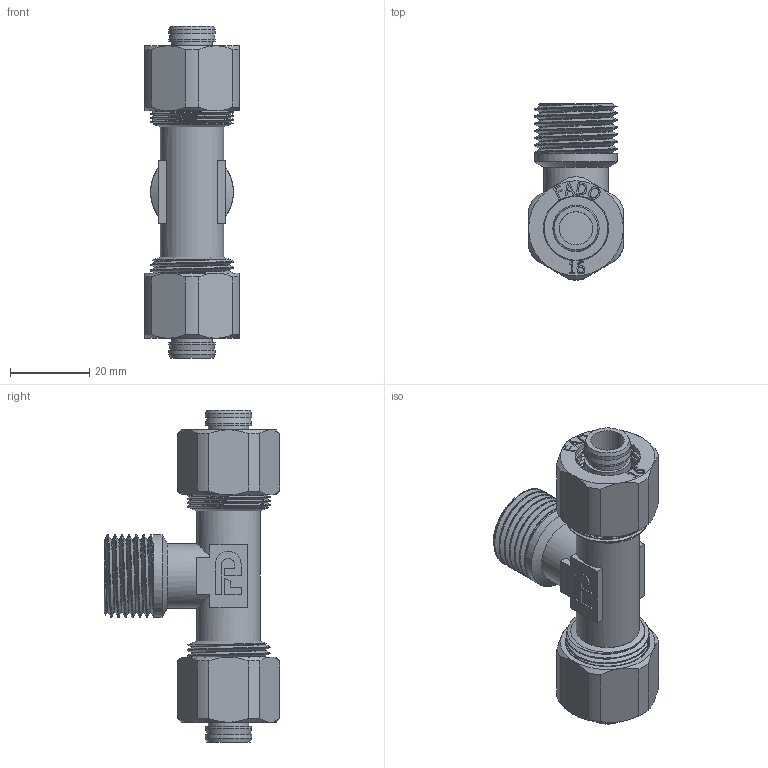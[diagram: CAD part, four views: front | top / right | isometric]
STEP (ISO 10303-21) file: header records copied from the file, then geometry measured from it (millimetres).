
FILE_DESCRIPTION(/* description */ (''),/* implementation_level */ '2;1');
FILE_NAME(/* name */ 'C:\Users\Doom\Desktop\Фадотех\Обжим\RFT21 16x12''''Mx16 30.03.2020\RFT21 16x12''''Mx16 30.03.2020.stp',/* time_stamp */ '2022-06-01T13:50:55+03:00',/* author */ ('Doom'),/* organization */ (''),/* preprocessor_version */ 'ST-DEVELOPER v18',/* originating_system */ 'Autodesk Inventor 2020',/* authorisation */ '');
FILE_SCHEMA (('AUTOMOTIVE_DESIGN { 1 0 10303 214 3 1 1 }'));
Length unit declared in the file: millimetre
Products named in the file (5): RFT21 16x12''Mx16 30.03.2020; RFT21 16x12''Mx16 30.03.2020_1; FADO MC Nut-16 15.02.2020; FADO MC Socket-16 15.02.2020; Olive 16 15.02.2020
Assembly tree (6 placements, depth 2):
  RFT21 16x12''Mx16 30.03.2020
    FADO MC Nut-16 15.02.2020  x2
    FADO MC Socket-16 15.02.2020  x2
    Olive 16 15.02.2020  x2
  RFT21 16x12''Mx16 30.03.2020_1
Bounding box: 24 x 44.49 x 84 mm (x, y, z)
Volume: 19094.6 mm3; surface area: 31267.3 mm2
Topology: 12 solids, 12 shells, 1063 faces, 2909 edges, 1952 vertices
Faces by surface type: bspline 506, plane 332, cylinder 168, cone 55, torus 2
Full cylindrical faces by diameter (mm): 8.5 x2, 10.2 x4, 11.7 x8, 12.5 x2, 12.6 x2, 14.7 x4, 15.5 x3, 16 x1, 16.3 x1, 16.5 x2, 18.26 x2, 18.776 x2, 19 x2, 19.5 x2, 19.517 x2, 19.867 x24, 20.95 x6, 21 x15, 21.35 x4
Entity records: 41328 total; most frequent: CARTESIAN_POINT 27626, ORIENTED_EDGE 3292, DIRECTION 1977, EDGE_CURVE 1646, VERTEX_POINT 1106, LINE 677, VECTOR 677, EDGE_LOOP 664
